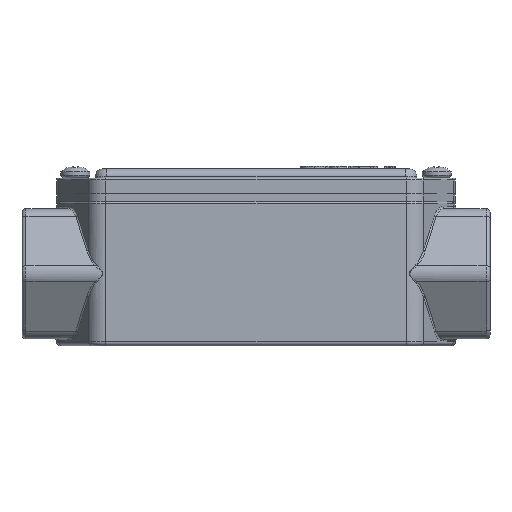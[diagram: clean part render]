
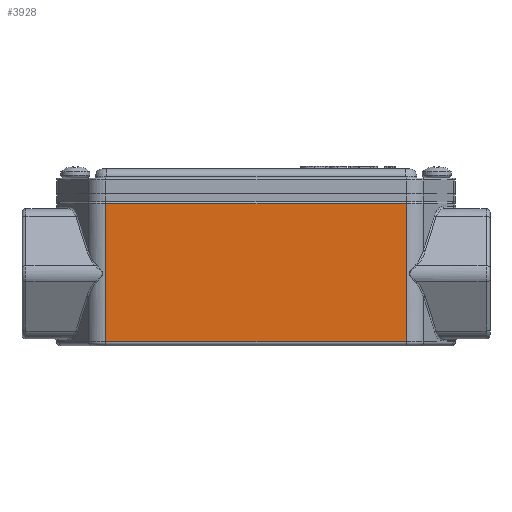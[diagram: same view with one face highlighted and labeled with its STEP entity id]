
A CAD part, front view. The second image highlights one B-rep face of the part: STEP entity #3928.
In plain terms, the highlighted planar face has unit normal (0, -1, 0).
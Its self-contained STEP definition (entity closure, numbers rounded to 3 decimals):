
#2603=CARTESIAN_POINT('',(38.043,-18.5,36.));
#2604=VERTEX_POINT('',#2603);
#2612=CARTESIAN_POINT('',(38.043,-18.5,1.));
#2613=VERTEX_POINT('',#2612);
#2614=CARTESIAN_POINT('',(38.043,-18.5,36.0));
#2615=DIRECTION('',(0.0,0.0,-1.0));
#2616=VECTOR('',#2615,35.0);
#2617=LINE('',#2614,#2616);
#2618=EDGE_CURVE('',#2604,#2613,#2617,.T.);
#2840=CARTESIAN_POINT('',(-38.043,-18.5,36.));
#2841=VERTEX_POINT('',#2840);
#2849=CARTESIAN_POINT('',(-38.043,-18.5,36.));
#2850=DIRECTION('',(1.0,0.0,0.0));
#2851=VECTOR('',#2850,76.086);
#2852=LINE('',#2849,#2851);
#2853=EDGE_CURVE('',#2841,#2604,#2852,.T.);
#3748=CARTESIAN_POINT('',(-38.043,-18.5,1.));
#3749=VERTEX_POINT('',#3748);
#3789=CARTESIAN_POINT('',(38.043,-18.5,1.0));
#3790=DIRECTION('',(-1.0,0.0,0.0));
#3791=VECTOR('',#3790,76.086);
#3792=LINE('',#3789,#3791);
#3793=EDGE_CURVE('',#2613,#3749,#3792,.T.);
#3912=CARTESIAN_POINT('',(50.5,-18.5,0.0));
#3913=DIRECTION('',(0.0,-1.0,0.0));
#3914=DIRECTION('',(0.0,0.0,-1.0));
#3915=AXIS2_PLACEMENT_3D('',#3912,#3913,#3914);
#3916=PLANE('',#3915);
#3917=ORIENTED_EDGE('',*,*,#2853,.F.);
#3918=CARTESIAN_POINT('',(-38.043,-18.5,1.0));
#3919=DIRECTION('',(0.0,0.0,1.0));
#3920=VECTOR('',#3919,35.0);
#3921=LINE('',#3918,#3920);
#3922=EDGE_CURVE('',#3749,#2841,#3921,.T.);
#3923=ORIENTED_EDGE('',*,*,#3922,.F.);
#3924=ORIENTED_EDGE('',*,*,#3793,.F.);
#3925=ORIENTED_EDGE('',*,*,#2618,.F.);
#3926=EDGE_LOOP('',(#3917,#3923,#3924,#3925));
#3927=FACE_OUTER_BOUND('',#3926,.T.);
#3928=ADVANCED_FACE('',(#3927),#3916,.T.);
